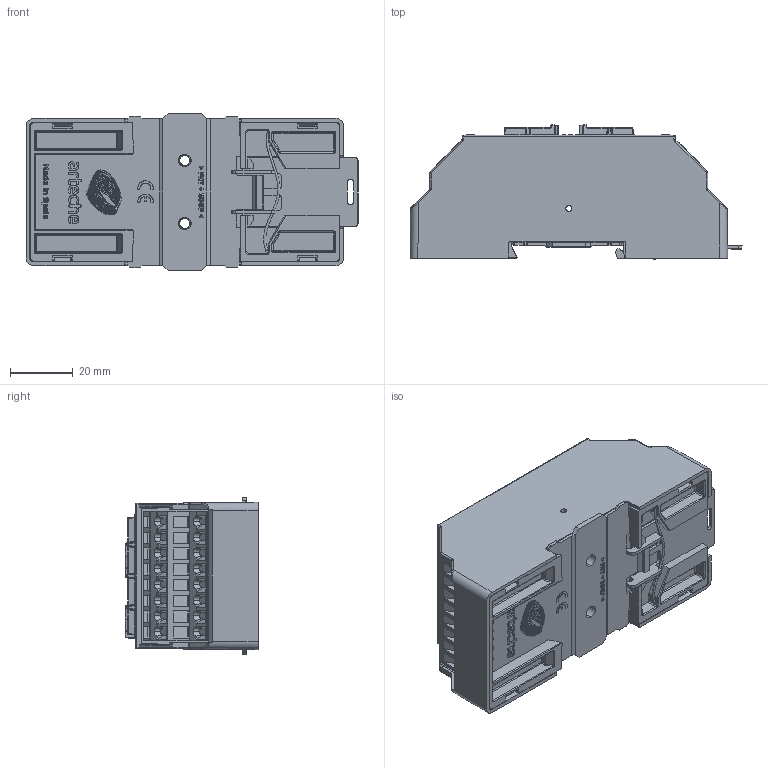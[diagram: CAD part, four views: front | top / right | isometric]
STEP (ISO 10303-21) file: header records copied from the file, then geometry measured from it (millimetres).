
FILE_DESCRIPTION (( 'STEP AP203' ), '1' );
FILE_NAME ('CL Spring socket.STEP', '2018-07-10T08:44:38', ( '' ), ( '' ), 'SwSTEP 2.0', 'SolidWorks 2017', '' );
FILE_SCHEMA (( 'CONFIG_CONTROL_DESIGN' ));
Products named in the file (7): 403555246 AGUJA FLEXIBLE FN DE_V6; CL Spring socket; 418642509_A BASE F-DE SUPERIOR CLAMP FF_Rev B2; 418642517_A BASE F-DE INFERIOR CLAMP FF; 121201207 CONECTOR CLAMP 2H 8P 5mm; 531889799; 567512546 SOPORTE FIJACION FN DE
Assembly tree (7 placements, depth 3):
  CL Spring socket
    418642509_A BASE F-DE SUPERIOR CLAMP FF_Rev B2
    418642517_A BASE F-DE INFERIOR CLAMP FF
    531889799
      121201207 CONECTOR CLAMP 2H 8P 5mm  x2
    567512546 SOPORTE FIJACION FN DE
    403555246 AGUJA FLEXIBLE FN DE_V6
Bounding box: 105.44 x 42.54 x 50.03 mm (x, y, z)
Volume: 60477 mm3; surface area: 57562.1 mm2
Topology: 6 solids, 6 shells, 5678 faces, 14307 edges, 8716 vertices
Faces by surface type: plane 2360, bspline 1666, cylinder 1474, cone 178
Entity records: 197806 total; most frequent: CARTESIAN_POINT 84791, ORIENTED_EDGE 26212, DIRECTION 18510, EDGE_CURVE 13106, VERTEX_POINT 8018, LINE 7120, VECTOR 7120, AXIS2_PLACEMENT_3D 5695
